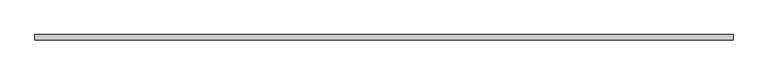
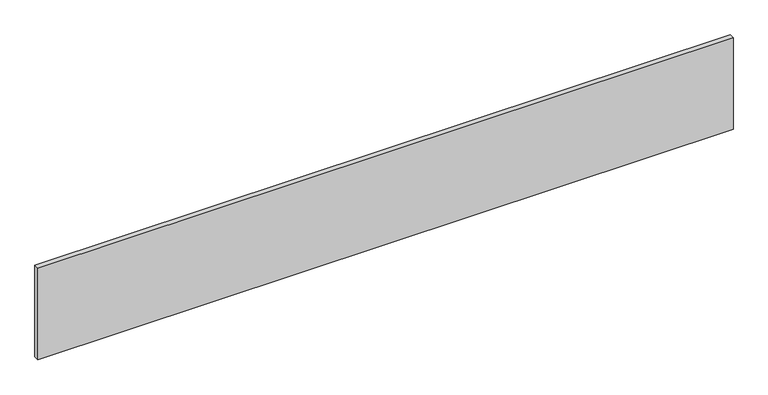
"""IFC4 building model written with IfcOpenShell, lengths in millimetres: plate geometry, 系统嵌板 : 玻璃."""

from ifc_helpers import new_model, si_unit, origin, origin_with_axes, place, context, project, spatial, polyline, outline, extrude, source, transform, mapped, element, save


def plate_a678f7a2(model_context):
    return source(origin(), model_context, "Body", "SweptSolid", [
        extrude(outline(polyline([(1635.0, -12.5), (-1635.0, -12.5), (-1635.0, 12.5), (1635.0, 12.5), (1635.0, -12.5)])), origin_with_axes(), (0.0, 0.0, 1.0), 455.0),
    ])


if __name__ == "__main__":
    model = new_model("IFC4")
    model_context = context("Model", 3, world=origin())
    ifc_project = project(units=[si_unit("LENGTHUNIT", "METRE", prefix="MILLI")], contexts=[model_context])
    site = spatial("IfcSite", under=ifc_project)
    building = spatial("IfcBuilding", under=site)
    placement = place(None, origin())
    plate_shape = plate_a678f7a2(model_context)
    element("IfcPlate", 1, ObjectType="系统嵌板 : 玻璃", at=placement, inside=building, context=model_context, shape_type="MappedRepresentation", body=[
        mapped(plate_shape, transform((0.0, 0.0, 0.0), x_axis=(1.0, 0.0, 0.0), y_axis=(0.0, 1.0, 0.0), z_axis=(0.0, 0.0, 1.0))),
    ])
    save(model, "model.ifc")
